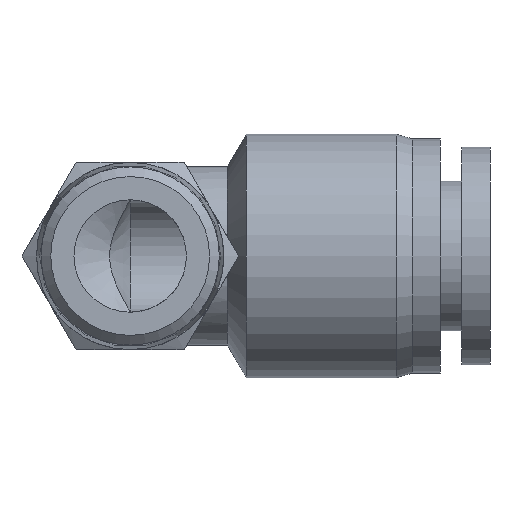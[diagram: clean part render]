
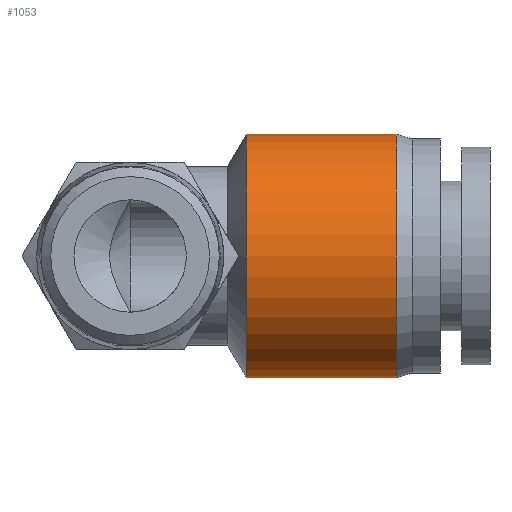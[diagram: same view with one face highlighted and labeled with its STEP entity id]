
A CAD part, front view. The second image highlights one B-rep face of the part: STEP entity #1053.
In plain terms, the highlighted cylindrical face has radius 6.5 mm (diameter 13 mm), a full revolution.
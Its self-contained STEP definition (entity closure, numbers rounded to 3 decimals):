
#1019=CARTESIAN_POINT('',(6.2,6.5,0.0));
#1020=VERTEX_POINT('',#1019);
#1021=CARTESIAN_POINT('',(6.2,0.0,0.0));
#1022=DIRECTION('',(1.0,0.0,0.0));
#1023=DIRECTION('',(0.0,1.0,0.0));
#1024=AXIS2_PLACEMENT_3D('',#1021,#1022,#1023);
#1025=CIRCLE('',#1024,6.5);
#1026=EDGE_CURVE('',#1020,#1020,#1025,.T.);
#1034=CARTESIAN_POINT('',(10.2,0.0,0.0));
#1035=DIRECTION('',(1.0,0.0,0.0));
#1036=DIRECTION('',(0.0,1.0,0.0));
#1037=AXIS2_PLACEMENT_3D('',#1034,#1035,#1036);
#1038=CYLINDRICAL_SURFACE('',#1037,6.5);
#1039=CARTESIAN_POINT('',(14.2,6.5,0.0));
#1040=VERTEX_POINT('',#1039);
#1041=CARTESIAN_POINT('',(14.2,0.0,0.0));
#1042=DIRECTION('',(1.0,0.0,0.0));
#1043=DIRECTION('',(0.0,1.0,0.0));
#1044=AXIS2_PLACEMENT_3D('',#1041,#1042,#1043);
#1045=CIRCLE('',#1044,6.5);
#1046=EDGE_CURVE('',#1040,#1040,#1045,.T.);
#1047=ORIENTED_EDGE('',*,*,#1046,.F.);
#1048=EDGE_LOOP('',(#1047));
#1049=FACE_OUTER_BOUND('',#1048,.T.);
#1050=ORIENTED_EDGE('',*,*,#1026,.T.);
#1051=EDGE_LOOP('',(#1050));
#1052=FACE_BOUND('',#1051,.T.);
#1053=ADVANCED_FACE('',(#1049,#1052),#1038,.T.);
